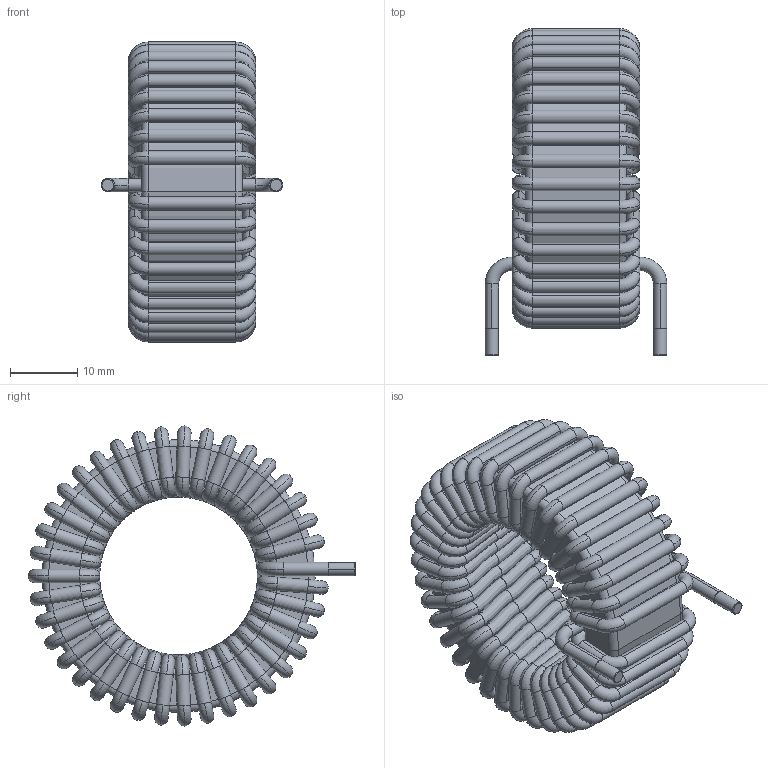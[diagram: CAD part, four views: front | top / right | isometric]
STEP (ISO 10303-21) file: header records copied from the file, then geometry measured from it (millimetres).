
FILE_DESCRIPTION (( 'STEP AP214' ), '1' );
FILE_NAME ('Toroidal inductor_wireDia2mm_44.6x27x44.6mm.STEP', '2025-11-23T21:40:50', ( '' ), ( '' ), 'SwSTEP 2.0', 'SolidWorks 2020', '' );
FILE_SCHEMA (( 'AUTOMOTIVE_DESIGN' ));
Length unit declared in the file: millimetre
Products named in the file (1): Toroidal inductor_wireDia2mm_44.6x27x44.6mm
Bounding box: 27 x 48.6 x 44.56 mm (x, y, z)
Surface area: 16463.6 mm2 (no closed solid volume)
Topology: 0 solids, 45 shells, 808 faces, 2148 edges, 1428 vertices
Faces by surface type: torus 320, cylinder 244, bspline 156, plane 88
Entity records: 54106 total; most frequent: CARTESIAN_POINT 24041, DIRECTION 5046, ORIENTED_EDGE 4292, AXIS2_PLACEMENT_3D 2401, EDGE_CURVE 2148, CIRCLE 1748, VERTEX_POINT 1428, UNCERTAINTY_MEASURE_WITH_UNIT 839
